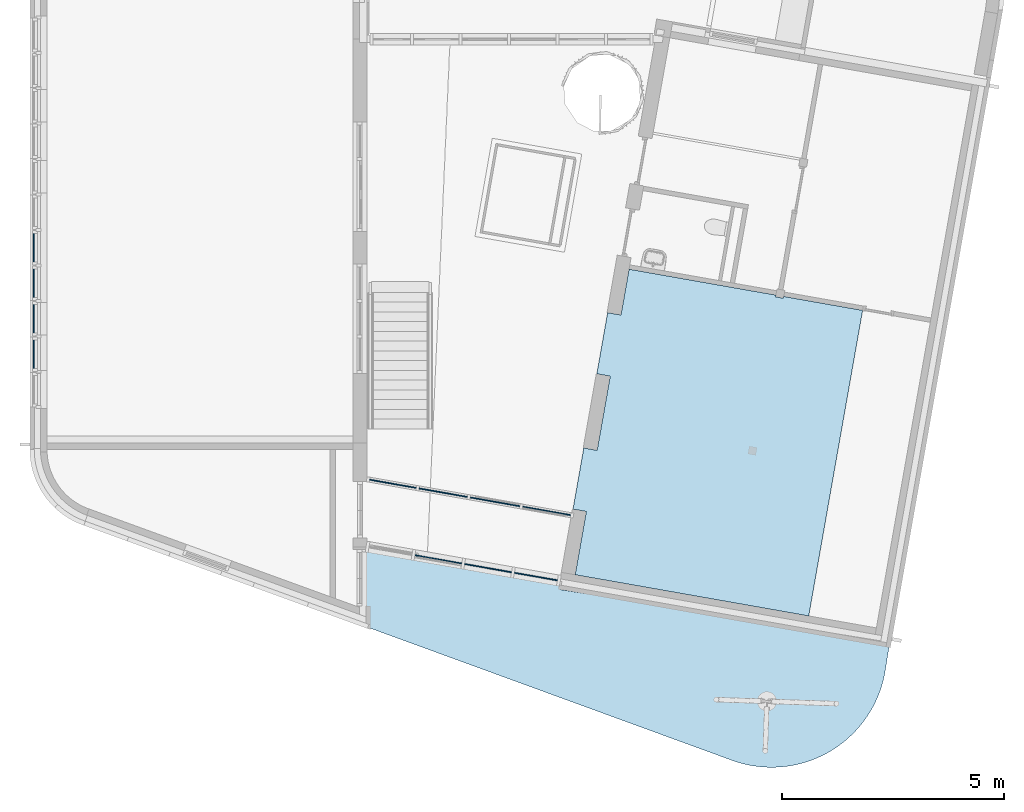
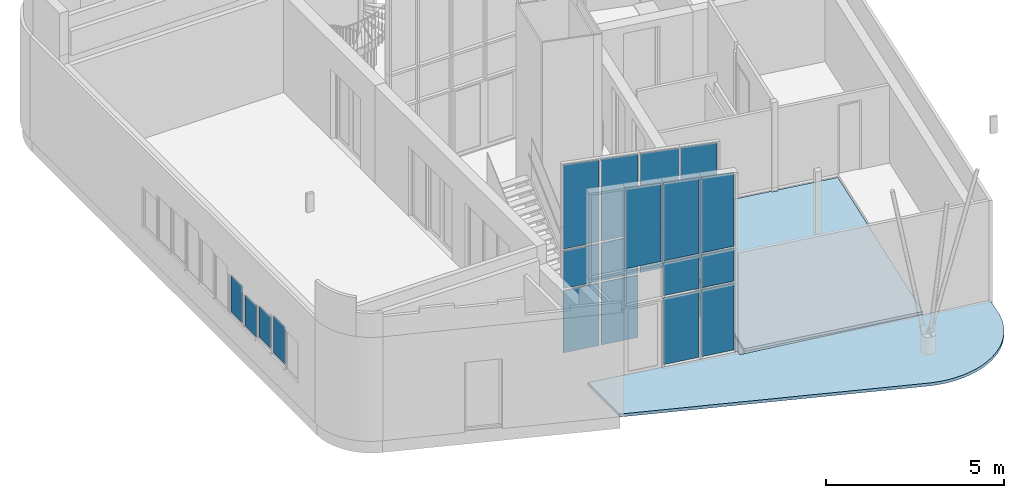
# One storey, part 8 of 21: 21 plates, 3 slabs, 6 elements without a shape of their own.
"""IFC2X3 building model written with IfcOpenShell, lengths in millimetres."""

from ifc_helpers import new_model, entity, si_unit, converted_unit, derived_unit, direction, frame, frame_2d, origin, place, context, subcontext, project, spatial, polyline, circle_curve, parameter, trimmed, segment, composite_curve, rectangle, outline, extrude, source, transform, mapped, material, layer, layer_set, layer_usage, type_object, type_shapes, element, aggregate, save


model = new_model("IFC2X3")

# Units and contexts
model_context = context("Model", 3, precision=0.01, world=origin(), true_north=direction((6.12303176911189e-17, 1.0)))
body_context = subcontext(model_context, "Body", "Model", "MODEL_VIEW")
ifc_project = project(units=[si_unit("LENGTHUNIT", "METRE", prefix="MILLI"), si_unit("AREAUNIT", "SQUARE_METRE"), si_unit("VOLUMEUNIT", "CUBIC_METRE"), converted_unit("PLANEANGLEUNIT", "DEGREE", entity("IfcRatioMeasure", 0.0174532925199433), si_unit("PLANEANGLEUNIT", "RADIAN"), dimensions=[0, 0, 0, 0, 0, 0, 0]), si_unit("MASSUNIT", "GRAM", prefix="KILO"), derived_unit("MASSDENSITYUNIT", [(si_unit("MASSUNIT", "GRAM", prefix="KILO"), 1), (si_unit("LENGTHUNIT", "METRE"), -3)]), si_unit("TIMEUNIT", "SECOND"), si_unit("FREQUENCYUNIT", "HERTZ"), si_unit("THERMODYNAMICTEMPERATUREUNIT", "DEGREE_CELSIUS"), derived_unit("THERMALTRANSMITTANCEUNIT", [(si_unit("MASSUNIT", "GRAM", prefix="KILO"), 1), (si_unit("THERMODYNAMICTEMPERATUREUNIT", "KELVIN"), -1), (si_unit("TIMEUNIT", "SECOND"), -3)]), derived_unit("VOLUMETRICFLOWRATEUNIT", [(si_unit("LENGTHUNIT", "METRE"), 3), (si_unit("TIMEUNIT", "SECOND"), -1)]), si_unit("ELECTRICCURRENTUNIT", "AMPERE"), si_unit("ELECTRICVOLTAGEUNIT", "VOLT"), si_unit("POWERUNIT", "WATT"), si_unit("FORCEUNIT", "NEWTON", prefix="KILO"), si_unit("ILLUMINANCEUNIT", "LUX"), si_unit("LUMINOUSFLUXUNIT", "LUMEN"), si_unit("LUMINOUSINTENSITYUNIT", "CANDELA"), derived_unit("USERDEFINED", [(si_unit("MASSUNIT", "GRAM", prefix="KILO"), -1), (si_unit("LENGTHUNIT", "METRE"), -2), (si_unit("TIMEUNIT", "SECOND"), 3), (si_unit("LUMINOUSFLUXUNIT", "LUMEN"), 1)]), derived_unit("LINEARVELOCITYUNIT", [(si_unit("LENGTHUNIT", "METRE"), 1), (si_unit("TIMEUNIT", "SECOND"), -1)]), si_unit("PRESSUREUNIT", "PASCAL"), derived_unit("USERDEFINED", [(si_unit("LENGTHUNIT", "METRE"), -2), (si_unit("MASSUNIT", "GRAM", prefix="KILO"), 1), (si_unit("TIMEUNIT", "SECOND"), -2)])], contexts=[model_context])

# Site, building, storey
site_placement = place(None, origin())
site = spatial("IfcSite", under=ifc_project, at=site_placement, Name="<Kadaster Gemeente>;<Kadaster nummer>;<Kadaster sectie>", CompositionType="ELEMENT")
building_placement = place(site_placement, origin())
building = spatial("IfcBuilding", under=site, at=building_placement, Name="JRCZ Middelburg", CompositionType="ELEMENT")
storey_placement = place(building_placement, origin())
storey = spatial("IfcBuildingStorey", under=building, at=storey_placement, Name="00 begane grond", CompositionType="ELEMENT", Elevation=0.0)

# Curtain wall, plates
curtain_wall_type_1 = type_object("IfcCurtainWallType", Name="Curtain Wall:vliesgevel B", PredefinedType="NOTDEFINED")
curtain_wall_1_placement = place(storey_placement, origin())
curtain_wall_1 = element("IfcCurtainWall", 1, at=curtain_wall_1_placement, inside=storey, type_object=curtain_wall_type_1, Name="Curtain Wall:vliesgevel B", ObjectType="Curtain Wall:vliesgevel B")
ifc_material_1 = material(Name="<Unnamed>")
ifc_layer_1 = layer(ifc_material_1, 24.0)
ifc_layer_set_1 = layer_set([ifc_layer_1], Name="System Panel:32_CWP_glas")
ifc_layer_usage_1 = layer_usage(ifc_layer_set_1, "AXIS3", "POSITIVE", 0.0)
plate_type_1 = type_object("IfcPlateType", Name="32_CWP_glas", PredefinedType="CURTAIN_PANEL", material=ifc_layer_set_1)
shared_shape_1 = source(origin(), body_context, "Body", "SweptSolid", [
    extrude(rectangle(XDim=24.0, YDim=1065.42331848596, at=frame_2d((0.0, -2.8421709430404e-13), x_axis=(1.0, 0.0))), frame((0.0, 0.0, 0.0), z_axis=(0.0, 0.0, 1.0), x_axis=(0.0, 1.0, 0.0)), (0.0, 0.0, 1.0), 2144.16666666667),
])
type_shapes(plate_type_1, [shared_shape_1])
plate_1_placement = place(curtain_wall_1_placement, frame((17952.8506915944, 9074.2385141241, 67.0), z_axis=(0.0, 0.0, 1.0), x_axis=(0.984807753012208, -0.173648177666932, 0.0)))
plate_1 = element("IfcPlate", 2, at=plate_1_placement, type_object=plate_type_1, material=ifc_layer_usage_1, Name="System Panel:32_CWP_glas", ObjectType="System Panel:32_CWP_glas", context=body_context, shape_type="MappedRepresentation", body=[
    mapped(shared_shape_1, transform((0.0, 0.0, 0.0), scale=1.0)),
])
ifc_layer_usage_2 = layer_usage(ifc_layer_set_1, "AXIS3", "POSITIVE", 0.0)
plate_type_2 = type_object("IfcPlateType", Name="32_CWP_glas", PredefinedType="CURTAIN_PANEL", material=ifc_layer_set_1)
shared_shape_2 = source(origin(), body_context, "Body", "SweptSolid", [
    extrude(rectangle(XDim=24.0, YDim=1105.26973481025, at=frame_2d((0.0, -2.27373675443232e-13), x_axis=(1.0, 0.0))), frame((0.0, 0.0, 0.0), z_axis=(0.0, 0.0, 1.0), x_axis=(0.0, 1.0, 0.0)), (0.0, 0.0, 1.0), 2144.16666666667),
])
type_shapes(plate_type_2, [shared_shape_2])
plate_2_placement = place(curtain_wall_1_placement, frame((19087.6904851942, 8874.13563973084, 67.0), z_axis=(0.0, 0.0, 1.0), x_axis=(0.984807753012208, -0.173648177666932, 0.0)))
plate_2 = element("IfcPlate", 3, at=plate_2_placement, type_object=plate_type_2, material=ifc_layer_usage_2, Name="System Panel:32_CWP_glas", ObjectType="System Panel:32_CWP_glas", context=body_context, shape_type="MappedRepresentation", body=[
    mapped(shared_shape_2, transform((0.0, 0.0, 0.0), scale=1.0)),
])
ifc_layer_usage_3 = layer_usage(ifc_layer_set_1, "AXIS3", "POSITIVE", 0.0)
plate_type_3 = type_object("IfcPlateType", Name="32_CWP_glas", PredefinedType="CURTAIN_PANEL", material=ifc_layer_set_1)
shared_shape_3 = source(origin(), body_context, "Body", "SweptSolid", [
    extrude(rectangle(XDim=24.0, YDim=1065.42331848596, at=frame_2d((0.0, -2.8421709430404e-13), x_axis=(1.0, 0.0))), frame((0.0, 0.0, 0.0), z_axis=(0.0, 0.0, 1.0), x_axis=(0.0, 1.0, 0.0)), (0.0, 0.0, 1.0), 1290.66666666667),
])
type_shapes(plate_type_3, [shared_shape_3])
plate_3_placement = place(curtain_wall_1_placement, frame((17952.8506915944, 9074.2385141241, 2278.16666666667), z_axis=(0.0, 0.0, 1.0), x_axis=(0.984807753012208, -0.173648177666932, 0.0)))
plate_3 = element("IfcPlate", 4, at=plate_3_placement, type_object=plate_type_3, material=ifc_layer_usage_3, Name="System Panel:32_CWP_glas", ObjectType="System Panel:32_CWP_glas", context=body_context, shape_type="MappedRepresentation", body=[
    mapped(shared_shape_3, transform((0.0, 0.0, 0.0), scale=1.0)),
])
ifc_layer_usage_4 = layer_usage(ifc_layer_set_1, "AXIS3", "POSITIVE", 0.0)
plate_type_4 = type_object("IfcPlateType", Name="32_CWP_glas", PredefinedType="CURTAIN_PANEL", material=ifc_layer_set_1)
shared_shape_4 = source(origin(), body_context, "Body", "SweptSolid", [
    extrude(rectangle(XDim=24.0, YDim=1105.26973481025, at=frame_2d((0.0, -2.27373675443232e-13), x_axis=(1.0, 0.0))), frame((0.0, 0.0, 0.0), z_axis=(0.0, 0.0, 1.0), x_axis=(0.0, 1.0, 0.0)), (0.0, 0.0, 1.0), 1290.66666666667),
])
type_shapes(plate_type_4, [shared_shape_4])
plate_4_placement = place(curtain_wall_1_placement, frame((19087.6904851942, 8874.13563973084, 2278.16666666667), z_axis=(0.0, 0.0, 1.0), x_axis=(0.984807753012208, -0.173648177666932, 0.0)))
plate_4 = element("IfcPlate", 5, at=plate_4_placement, type_object=plate_type_4, material=ifc_layer_usage_4, Name="System Panel:32_CWP_glas", ObjectType="System Panel:32_CWP_glas", context=body_context, shape_type="MappedRepresentation", body=[
    mapped(shared_shape_4, transform((0.0, 0.0, 0.0), scale=1.0)),
])
ifc_layer_usage_5 = layer_usage(ifc_layer_set_1, "AXIS3", "POSITIVE", 0.0)
plate_type_5 = type_object("IfcPlateType", Name="32_CWP_glas", PredefinedType="CURTAIN_PANEL", material=ifc_layer_set_1)
shared_shape_5 = source(origin(), body_context, "Body", "SweptSolid", [
    extrude(rectangle(XDim=24.0, YDim=1135.38545793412, at=frame_2d((0.0, -5.6843418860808e-14), x_axis=(1.0, 0.0))), frame((0.0, 0.0, 0.0), z_axis=(0.0, 0.0, 1.0), x_axis=(0.0, 1.0, 0.0)), (0.0, 0.0, 1.0), 1290.66666666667),
])
type_shapes(plate_type_5, [shared_shape_5])
plate_5_placement = place(curtain_wall_1_placement, frame((20256.9799074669, 8667.95836632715, 2278.16666666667), z_axis=(0.0, 0.0, 1.0), x_axis=(0.984807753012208, -0.173648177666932, 0.0)))
plate_5 = element("IfcPlate", 6, at=plate_5_placement, type_object=plate_type_5, material=ifc_layer_usage_5, Name="System Panel:32_CWP_glas", ObjectType="System Panel:32_CWP_glas", context=body_context, shape_type="MappedRepresentation", body=[
    mapped(shared_shape_5, transform((0.0, 0.0, 0.0), scale=1.0)),
])
ifc_layer_usage_6 = layer_usage(ifc_layer_set_1, "AXIS3", "POSITIVE", 0.0)
plate_type_6 = type_object("IfcPlateType", Name="32_CWP_glas", PredefinedType="CURTAIN_PANEL", material=ifc_layer_set_1)
shared_shape_6 = source(origin(), body_context, "Body", "SweptSolid", [
    extrude(rectangle(XDim=24.0, YDim=1095.63545793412, at=frame_2d((0.0, 3.41060513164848e-13), x_axis=(1.0, 0.0))), frame((0.0, 0.0, 0.0), z_axis=(0.0, 0.0, 1.0), x_axis=(0.0, 1.0, 0.0)), (0.0, 0.0, 1.0), 1290.66666666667),
])
type_shapes(plate_type_6, [shared_shape_6])
plate_6_placement = place(curtain_wall_1_placement, frame((21421.5253744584, 8462.6175802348, 2278.16666666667), z_axis=(0.0, 0.0, 1.0), x_axis=(0.984807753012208, -0.173648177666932, 0.0)))
plate_6 = element("IfcPlate", 7, at=plate_6_placement, type_object=plate_type_6, material=ifc_layer_usage_6, Name="System Panel:32_CWP_glas", ObjectType="System Panel:32_CWP_glas", context=body_context, shape_type="MappedRepresentation", body=[
    mapped(shared_shape_6, transform((0.0, 0.0, 0.0), scale=1.0)),
])
ifc_layer_usage_7 = layer_usage(ifc_layer_set_1, "AXIS3", "POSITIVE", 0.0)
plate_type_7 = type_object("IfcPlateType", Name="32_CWP_glas", PredefinedType="CURTAIN_PANEL", material=ifc_layer_set_1)
shared_shape_7 = source(origin(), body_context, "Body", "SweptSolid", [
    extrude(outline(polyline([(-1213.26966802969, -532.711659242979), (-426.769668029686, -532.711659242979), (1678.83955149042, -532.711659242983), (1601.23912062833, 532.711659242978), (-426.769668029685, 532.711659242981), (-1213.26966802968, 532.711659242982), (-1213.26966802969, -532.711659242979)])), frame((0.0, -12.0, 1213.26966802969), z_axis=(0.0, 1.0, 0.0), x_axis=(0.0, 0.0, 1.0)), (0.0, 0.0, 1.0), 24.0),
])
type_shapes(plate_type_7, [shared_shape_7])
plate_7_placement = place(curtain_wall_1_placement, frame((17952.8506915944, 9074.2385141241, 3635.83333333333), z_axis=(0.0, 0.0, 1.0), x_axis=(0.984807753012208, -0.173648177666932, 0.0)))
plate_7 = element("IfcPlate", 8, at=plate_7_placement, type_object=plate_type_7, material=ifc_layer_usage_7, Name="System Panel:32_CWP_glas", ObjectType="System Panel:32_CWP_glas", context=body_context, shape_type="MappedRepresentation", body=[
    mapped(shared_shape_7, transform((0.0, 0.0, 0.0), scale=1.0)),
])
ifc_layer_usage_8 = layer_usage(ifc_layer_set_1, "AXIS3", "POSITIVE", 0.0)
plate_type_8 = type_object("IfcPlateType", Name="32_CWP_glas", PredefinedType="CURTAIN_PANEL", material=ifc_layer_set_1)
shared_shape_8 = source(origin(), body_context, "Body", "SweptSolid", [
    extrude(outline(polyline([(-1185.29249832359, -552.634867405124), (-398.792498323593, -552.634867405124), (1624.33632499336, -552.634867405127), (1543.83366830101, 552.634867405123), (-398.792498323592, 552.634867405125), (-1185.29249832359, 552.634867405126), (-1185.29249832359, -552.634867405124)])), frame((0.0, -12.0, 1185.29249832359), z_axis=(0.0, 1.0, 0.0), x_axis=(0.0, 0.0, 1.0)), (0.0, 0.0, 1.0), 24.0),
])
type_shapes(plate_type_8, [shared_shape_8])
plate_8_placement = place(curtain_wall_1_placement, frame((19087.6904851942, 8874.13563973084, 3635.83333333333), z_axis=(0.0, 0.0, 1.0), x_axis=(0.984807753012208, -0.173648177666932, 0.0)))
plate_8 = element("IfcPlate", 9, at=plate_8_placement, type_object=plate_type_8, material=ifc_layer_usage_8, Name="System Panel:32_CWP_glas", ObjectType="System Panel:32_CWP_glas", context=body_context, shape_type="MappedRepresentation", body=[
    mapped(shared_shape_8, transform((0.0, 0.0, 0.0), scale=1.0)),
])
ifc_layer_usage_9 = layer_usage(ifc_layer_set_1, "AXIS3", "POSITIVE", 0.0)
plate_type_9 = type_object("IfcPlateType", Name="32_CWP_glas", PredefinedType="CURTAIN_PANEL", material=ifc_layer_set_1)
shared_shape_9 = source(origin(), body_context, "Body", "SweptSolid", [
    extrude(outline(polyline([(-1156.46604300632, -567.69272896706), (-369.966043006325, -567.69272896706), (1567.78015827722, -567.692728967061), (1485.08401374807, 567.692728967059), (-369.966043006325, 567.69272896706), (-1156.46604300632, 567.692728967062), (-1156.46604300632, -567.69272896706)])), frame((0.0, -12.0, 1156.46604300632), z_axis=(0.0, 1.0, 0.0), x_axis=(0.0, 0.0, 1.0)), (0.0, 0.0, 1.0), 24.0),
])
type_shapes(plate_type_9, [shared_shape_9])
plate_9_placement = place(curtain_wall_1_placement, frame((20256.9799074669, 8667.95836632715, 3635.83333333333), z_axis=(0.0, 0.0, 1.0), x_axis=(0.984807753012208, -0.173648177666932, 0.0)))
plate_9 = element("IfcPlate", 10, at=plate_9_placement, type_object=plate_type_9, material=ifc_layer_usage_9, Name="System Panel:32_CWP_glas", ObjectType="System Panel:32_CWP_glas", context=body_context, shape_type="MappedRepresentation", body=[
    mapped(shared_shape_9, transform((0.0, 0.0, 0.0), scale=1.0)),
])
ifc_layer_usage_10 = layer_usage(ifc_layer_set_1, "AXIS3", "POSITIVE", 0.0)
plate_type_10 = type_object("IfcPlateType", Name="32_CWP_glas", PredefinedType="CURTAIN_PANEL", material=ifc_layer_set_1)
shared_shape_10 = source(origin(), body_context, "Body", "SweptSolid", [
    extrude(outline(polyline([(-1127.73672556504, -547.817728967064), (-341.236725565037, -547.817728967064), (1508.82053321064, -547.817728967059), (1429.12636904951, 547.817728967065), (-341.236725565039, 547.817728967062), (-1127.73672556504, 547.81772896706), (-1127.73672556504, -547.817728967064)])), frame((0.0, -12.0, 1127.73672556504), z_axis=(0.0, 1.0, 0.0), x_axis=(0.0, 0.0, 1.0)), (0.0, 0.0, 1.0), 24.0),
])
type_shapes(plate_type_10, [shared_shape_10])
plate_10_placement = place(curtain_wall_1_placement, frame((21421.5253744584, 8462.6175802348, 3635.83333333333), z_axis=(0.0, 0.0, 1.0), x_axis=(0.984807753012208, -0.173648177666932, 0.0)))
plate_10 = element("IfcPlate", 11, at=plate_10_placement, type_object=plate_type_10, material=ifc_layer_usage_10, Name="System Panel:32_CWP_glas", ObjectType="System Panel:32_CWP_glas", context=body_context, shape_type="MappedRepresentation", body=[
    mapped(shared_shape_10, transform((0.0, 0.0, 0.0), scale=1.0)),
])
aggregate(curtain_wall_1, [plate_1, plate_2, plate_3, plate_4, plate_5, plate_6, plate_7, plate_8, plate_9, plate_10])

# Curtain wall, plate
curtain_wall_type_2 = type_object("IfcCurtainWallType", Name="Curtain Wall:NLRS_31_CW_Ontwerpkozijn 067x114 2", PredefinedType="NOTDEFINED")
curtain_wall_2_placement = place(storey_placement, origin())
curtain_wall_2 = element("IfcCurtainWall", 12, at=curtain_wall_2_placement, inside=storey, type_object=curtain_wall_type_2, Name="Curtain Wall:NLRS_31_CW_Ontwerpkozijn 067x114 2", ObjectType="Curtain Wall:NLRS_31_CW_Ontwerpkozijn 067x114 2")
ifc_layer_2 = layer(ifc_material_1, 24.0)
ifc_layer_set_2 = layer_set([ifc_layer_2], Name="System Panel:31_CWP_glas_2")
ifc_layer_usage_11 = layer_usage(ifc_layer_set_2, "AXIS3", "POSITIVE", 0.278871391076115)
plate_type_11 = type_object("IfcPlateType", Name="31_CWP_glas_2", PredefinedType="CURTAIN_PANEL", material=ifc_layer_set_2)
shared_shape_11 = source(origin(), body_context, "Body", "SweptSolid", [
    extrude(rectangle(XDim=24.0, YDim=640.999999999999, at=frame_2d((-7.99360577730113e-15, 0.0), x_axis=(1.0, 0.0))), frame((0.0, -85.0, 0.0), z_axis=(0.0, 0.0, 1.0), x_axis=(0.0, 1.0, 0.0)), (0.0, 0.0, 1.0), 1266.0),
])
type_shapes(plate_type_11, [shared_shape_11])
plate_11_placement = place(curtain_wall_2_placement, frame((9931.0, 12000.0, 817.0), z_axis=(0.0, 0.0, 1.0), x_axis=(0.0, -1.0, 0.0)))
plate_11 = element("IfcPlate", 13, at=plate_11_placement, type_object=plate_type_11, material=ifc_layer_usage_11, Name="System Panel:31_CWP_glas_2", ObjectType="System Panel:31_CWP_glas_2", context=body_context, shape_type="MappedRepresentation", body=[
    mapped(shared_shape_11, transform((0.0, 0.0, 0.0), scale=1.0)),
])
aggregate(curtain_wall_2, [plate_11])

curtain_wall_3_placement = place(storey_placement, origin())
curtain_wall_3 = element("IfcCurtainWall", 14, at=curtain_wall_3_placement, inside=storey, type_object=curtain_wall_type_2, Name="Curtain Wall:NLRS_31_CW_Ontwerpkozijn 067x114 2", ObjectType="Curtain Wall:NLRS_31_CW_Ontwerpkozijn 067x114 2")
ifc_layer_usage_12 = layer_usage(ifc_layer_set_2, "AXIS3", "POSITIVE", 0.278871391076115)
plate_12_placement = place(curtain_wall_3_placement, frame((9931.0, 14400.0, 767.0), z_axis=(0.0, 0.0, 1.0), x_axis=(0.0, -1.0, 0.0)))
plate_12 = element("IfcPlate", 15, at=plate_12_placement, type_object=plate_type_11, material=ifc_layer_usage_12, Name="System Panel:31_CWP_glas_2", ObjectType="System Panel:31_CWP_glas_2", context=body_context, shape_type="MappedRepresentation", body=[
    mapped(shared_shape_11, transform((0.0, 0.0, 0.0), scale=1.0)),
])
aggregate(curtain_wall_3, [plate_12])

# Slab
ifc_material_2 = material(Name="RBM_f2_beton_ihwg_gen")
ifc_layer_3 = layer(ifc_material_2, 100.0)
ifc_layer_set_3 = layer_set([ifc_layer_3], Name="Floor:RBM_43_FL_cementdekvloer-50mm_gen_rsf")
ifc_layer_usage_13 = layer_usage(ifc_layer_set_3, "AXIS3", "POSITIVE", 0.0)
slab_type_1 = type_object("IfcSlabType", Name="Floor:RBM_43_FL_cementdekvloer-50mm_gen_rsf", PredefinedType="FLOOR", material=ifc_layer_set_3)
slab_1_placement = place(storey_placement, origin())
element("IfcSlab", 16, at=slab_1_placement, inside=storey, type_object=slab_type_1, material=ifc_layer_usage_13, Name="Floor:RBM_43_FL_cementdekvloer-50mm_gen_rsf", ObjectType="Floor:RBM_43_FL_cementdekvloer-50mm_gen_rsf", PredefinedType="FLOOR", context=body_context, shape_type="SweptSolid", body=[
    extrude(outline(composite_curve([segment(polyline([(106.888391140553, -5799.90451318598), (1903.3167253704, -5799.90451318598)]), True, "CONTINUOUS"), segment(polyline([(1903.3167253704, -5799.90451318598), (1119.95172952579, -1378.51361914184)]), True, "CONTINUOUS"), segment(polyline([(1119.95172952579, -1378.51361914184), (943.199966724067, -1409.82981516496)]), True, "CONTINUOUS"), segment(polyline([(943.199966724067, -1409.82981516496), (-245.57686505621, 6018.92743169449)]), True, "CONTINUOUS"), segment(polyline([(-245.57686505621, 6018.92743169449), (-918.630938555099, 5911.22286382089)]), True, "CONTINUOUS"), segment(trimmed(circle_curve(frame_2d((-467.209199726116, 3350.7115059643), x_axis=(-0.17362374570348, 0.984812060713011)), 2600.0), [parameter(0.0)], [parameter(100.082512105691)], True, "PARAMETER"), True, "CONTINUOUS"), segment(polyline([(-2909.14900914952, 2458.00216516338), (106.888391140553, -5799.90451318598)]), True, "CONTINUOUS")], self_intersect=False)), frame((23143.9045131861, 5744.53608267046, 0.0), z_axis=(0.0, 0.0, -1.0), x_axis=(0.0, 1.0, 0.0)), (0.0, 0.0, 1.0), 100.0),
])

# Curtain wall, plate
curtain_wall_4_placement = place(storey_placement, origin())
curtain_wall_4 = element("IfcCurtainWall", 17, at=curtain_wall_4_placement, inside=storey, type_object=curtain_wall_type_2, Name="Curtain Wall:NLRS_31_CW_Ontwerpkozijn 067x114 2", ObjectType="Curtain Wall:NLRS_31_CW_Ontwerpkozijn 067x114 2")
ifc_layer_usage_14 = layer_usage(ifc_layer_set_2, "AXIS3", "POSITIVE", 0.278871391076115)
plate_type_12 = type_object("IfcPlateType", Name="31_CWP_glas_2", PredefinedType="CURTAIN_PANEL", material=ifc_layer_set_2)
shared_shape_12 = source(origin(), body_context, "Body", "SweptSolid", [
    extrude(rectangle(XDim=24.0, YDim=640.999999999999, at=frame_2d((-7.99360577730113e-15, 0.0), x_axis=(1.0, 0.0))), frame((0.0, -85.0, 0.0), z_axis=(0.0, 0.0, 1.0), x_axis=(0.0, 1.0, 0.0)), (0.0, 0.0, 1.0), 1066.0),
])
type_shapes(plate_type_12, [shared_shape_12])
plate_13_placement = place(curtain_wall_4_placement, frame((9931.0, 13600.0, 767.0), z_axis=(0.0, 0.0, 1.0), x_axis=(0.0, -1.0, 0.0)))
plate_13 = element("IfcPlate", 18, at=plate_13_placement, type_object=plate_type_12, material=ifc_layer_usage_14, Name="System Panel:31_CWP_glas_2", ObjectType="System Panel:31_CWP_glas_2", context=body_context, shape_type="MappedRepresentation", body=[
    mapped(shared_shape_12, transform((0.0, 0.0, 0.0), scale=1.0)),
])
aggregate(curtain_wall_4, [plate_13])

curtain_wall_5_placement = place(storey_placement, origin())
curtain_wall_5 = element("IfcCurtainWall", 19, at=curtain_wall_5_placement, inside=storey, type_object=curtain_wall_type_2, Name="Curtain Wall:NLRS_31_CW_Ontwerpkozijn 067x114 2", ObjectType="Curtain Wall:NLRS_31_CW_Ontwerpkozijn 067x114 2")
ifc_layer_usage_15 = layer_usage(ifc_layer_set_2, "AXIS3", "POSITIVE", 0.278871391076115)
plate_14_placement = place(curtain_wall_5_placement, frame((9931.0, 12800.0, 867.0), z_axis=(0.0, 0.0, 1.0), x_axis=(0.0, -1.0, 0.0)))
plate_14 = element("IfcPlate", 20, at=plate_14_placement, type_object=plate_type_12, material=ifc_layer_usage_15, Name="System Panel:31_CWP_glas_2", ObjectType="System Panel:31_CWP_glas_2", context=body_context, shape_type="MappedRepresentation", body=[
    mapped(shared_shape_12, transform((0.0, 0.0, 0.0), scale=1.0)),
])
aggregate(curtain_wall_5, [plate_14])

# Slabs
ifc_material_3 = material(Name="vloerafwerking pvc")
ifc_layer_4 = layer(ifc_material_3, 10.0)
ifc_material_4 = material(Name="RBM_f2_beton_ihwg C20-25")
ifc_layer_5 = layer(ifc_material_4, 80.0)
ifc_layer_set_4 = layer_set([ifc_layer_4, ifc_layer_5], Name="Floor:RBM_23_FL_gewapende druklaag gevlinderd+ afwerking")
ifc_layer_usage_16 = layer_usage(ifc_layer_set_4, "AXIS3", "POSITIVE", 0.0)
slab_type_2 = type_object("IfcSlabType", Name="Floor:RBM_23_FL_gewapende druklaag gevlinderd+ afwerking", PredefinedType="FLOOR", material=ifc_layer_set_4)
slab_2_placement = place(storey_placement, origin())
element("IfcSlab", 21, at=slab_2_placement, inside=storey, type_object=slab_type_2, material=ifc_layer_usage_16, Name="Floor:RBM_23_FL_gewapende druklaag gevlinderd+ afwerking", ObjectType="Floor:RBM_23_FL_gewapende druklaag gevlinderd+ afwerking", PredefinedType="FLOOR", context=body_context, shape_type="SweptSolid", body=[
    extrude(outline(polyline([(-2530.0, -3894.25), (4470.0, -3894.25), (4470.0, 1455.74999999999), (3020.0, 1455.74999999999), (3020.0, 1761.75), (1620.0, 1761.75), (1620.0, 1455.75), (-80.0, 1455.75), (-80.0, 1761.75), (-1480.0, 1761.75), (-1480.0, 1455.75), (-2530.0, 1455.75), (-2530.0, -1908.25), (-2490.0, -1908.25), (-2490.0, -2088.25), (-2530.0, -2088.25), (-2530.0, -3894.25)])), frame((24275.0452005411, 11171.2594183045, -120.0), z_axis=(0.0, 0.0, -1.0), x_axis=(-0.173648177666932, -0.984807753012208, 0.0)), (0.0, 0.0, 1.0), 90.0),
])
ifc_material_5 = material(Name="RBM_n7_isolatie_hsb_245")
ifc_layer_6 = layer(ifc_material_5, 560.0)
ifc_layer_set_5 = layer_set([ifc_layer_6], Name="Floor:RBM_23_FL_tempex 690mm")
ifc_layer_usage_17 = layer_usage(ifc_layer_set_5, "AXIS3", "POSITIVE", 0.0)
slab_type_3 = type_object("IfcSlabType", Name="Floor:RBM_23_FL_tempex 690mm", PredefinedType="FLOOR", material=ifc_layer_set_5)
slab_3_placement = place(storey_placement, origin())
element("IfcSlab", 22, at=slab_3_placement, inside=storey, type_object=slab_type_3, material=ifc_layer_usage_17, Name="Floor:RBM_23_FL_tempex 690mm", ObjectType="Floor:RBM_23_FL_tempex 690mm", PredefinedType="FLOOR", context=body_context, shape_type="SweptSolid", body=[
    extrude(outline(polyline([(-2530.0, -3894.24999999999), (4470.0, -3894.24999999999), (4470.0, 1455.75), (3020.0, 1455.75), (3020.0, 1761.75), (1620.0, 1761.75), (1620.0, 1455.75), (-80.0, 1455.75), (-80.0, 1761.75), (-1480.0, 1761.75), (-1480.0, 1455.75000000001), (-2530.0, 1455.75000000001), (-2530.0, -1908.25), (-2490.0, -1908.25), (-2490.0, -2088.25), (-2530.0, -2088.25), (-2530.0, -3894.24999999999)])), frame((24275.0452005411, 11171.2594183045, -200.0), z_axis=(0.0, 0.0, -1.0), x_axis=(-0.173648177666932, -0.984807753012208, 0.0)), (0.0, 0.0, 1.0), 560.0),
])

# Curtain wall, plates
curtain_wall_type_3 = type_object("IfcCurtainWallType", Name="Curtain Wall:vliesgevel A", PredefinedType="NOTDEFINED")
curtain_wall_6_placement = place(storey_placement, origin())
curtain_wall_6 = element("IfcCurtainWall", 23, at=curtain_wall_6_placement, inside=storey, type_object=curtain_wall_type_3, Name="Curtain Wall:vliesgevel A", ObjectType="Curtain Wall:vliesgevel A")
ifc_layer_7 = layer(ifc_material_1, 24.0)
ifc_layer_set_6 = layer_set([ifc_layer_7], Name="System Panel:31_CWP_glas_1")
ifc_layer_usage_18 = layer_usage(ifc_layer_set_6, "AXIS3", "POSITIVE", 0.187007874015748)
plate_type_13 = type_object("IfcPlateType", Name="31_CWP_glas_1", PredefinedType="CURTAIN_PANEL", material=ifc_layer_set_6)
shared_shape_13 = source(origin(), body_context, "Body", "SweptSolid", [
    extrude(rectangle(XDim=24.0, YDim=985.058752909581, at=frame_2d((-4.44089209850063e-15, -2.55795384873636e-13), x_axis=(1.0, 0.0))), frame((0.0, 57.0, 0.0), z_axis=(0.0, 0.0, 1.0), x_axis=(0.0, 1.0, 0.0)), (0.0, 0.0, 1.0), 2299.5),
])
type_shapes(plate_type_13, [shared_shape_13])
plate_15_placement = place(curtain_wall_6_placement, frame((21189.0341191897, 7037.33603375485, 67.0), z_axis=(0.0, 0.0, 1.0), x_axis=(-0.984807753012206, 0.173648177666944, 0.0)))
plate_15 = element("IfcPlate", 24, at=plate_15_placement, type_object=plate_type_13, material=ifc_layer_usage_18, Name="System Panel:31_CWP_glas_1", ObjectType="System Panel:31_CWP_glas_1", context=body_context, shape_type="MappedRepresentation", body=[
    mapped(shared_shape_13, transform((0.0, 0.0, 0.0), scale=1.0)),
])
ifc_layer_usage_19 = layer_usage(ifc_layer_set_6, "AXIS3", "POSITIVE", 0.187007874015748)
plate_type_14 = type_object("IfcPlateType", Name="31_CWP_glas_1", PredefinedType="CURTAIN_PANEL", material=ifc_layer_set_6)
shared_shape_14 = source(origin(), body_context, "Body", "SweptSolid", [
    extrude(rectangle(XDim=24.0, YDim=1072.5587529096, at=frame_2d((-4.44089209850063e-15, 3.41060513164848e-13), x_axis=(1.0, 0.0))), frame((0.0, 57.0, 0.0), z_axis=(0.0, 0.0, 1.0), x_axis=(0.0, 1.0, 0.0)), (0.0, 0.0, 1.0), 2299.5),
])
type_shapes(plate_type_14, [shared_shape_14])
plate_16_placement = place(curtain_wall_6_placement, frame((20109.8731635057, 7227.62122676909, 67.0), z_axis=(0.0, 0.0, 1.0), x_axis=(-0.984807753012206, 0.173648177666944, 0.0)))
plate_16 = element("IfcPlate", 25, at=plate_16_placement, type_object=plate_type_14, material=ifc_layer_usage_19, Name="System Panel:31_CWP_glas_1", ObjectType="System Panel:31_CWP_glas_1", context=body_context, shape_type="MappedRepresentation", body=[
    mapped(shared_shape_14, transform((0.0, 0.0, 0.0), scale=1.0)),
])
ifc_layer_usage_20 = layer_usage(ifc_layer_set_6, "AXIS3", "POSITIVE", 0.187007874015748)
plate_type_15 = type_object("IfcPlateType", Name="31_CWP_glas_1", PredefinedType="CURTAIN_PANEL", material=ifc_layer_set_6)
shared_shape_15 = source(origin(), body_context, "Body", "SweptSolid", [
    extrude(rectangle(XDim=24.0, YDim=985.058752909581, at=frame_2d((-4.44089209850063e-15, -2.55795384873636e-13), x_axis=(1.0, 0.0))), frame((0.0, 57.0, 0.0), z_axis=(0.0, 0.0, 1.0), x_axis=(0.0, 1.0, 0.0)), (0.0, 0.0, 1.0), 1133.0),
])
type_shapes(plate_type_15, [shared_shape_15])
plate_17_placement = place(curtain_wall_6_placement, frame((21189.0341191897, 7037.33603375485, 2433.5), z_axis=(0.0, 0.0, 1.0), x_axis=(-0.984807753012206, 0.173648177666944, 0.0)))
plate_17 = element("IfcPlate", 26, at=plate_17_placement, type_object=plate_type_15, material=ifc_layer_usage_20, Name="System Panel:31_CWP_glas_1", ObjectType="System Panel:31_CWP_glas_1", context=body_context, shape_type="MappedRepresentation", body=[
    mapped(shared_shape_15, transform((0.0, 0.0, 0.0), scale=1.0)),
])
ifc_layer_usage_21 = layer_usage(ifc_layer_set_6, "AXIS3", "POSITIVE", 0.187007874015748)
plate_type_16 = type_object("IfcPlateType", Name="31_CWP_glas_1", PredefinedType="CURTAIN_PANEL", material=ifc_layer_set_6)
shared_shape_16 = source(origin(), body_context, "Body", "SweptSolid", [
    extrude(rectangle(XDim=24.0, YDim=1072.5587529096, at=frame_2d((-4.44089209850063e-15, 3.41060513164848e-13), x_axis=(1.0, 0.0))), frame((0.0, 57.0, 0.0), z_axis=(0.0, 0.0, 1.0), x_axis=(0.0, 1.0, 0.0)), (0.0, 0.0, 1.0), 1133.0),
])
type_shapes(plate_type_16, [shared_shape_16])
plate_18_placement = place(curtain_wall_6_placement, frame((20109.8731635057, 7227.62122676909, 2433.5), z_axis=(0.0, 0.0, 1.0), x_axis=(-0.984807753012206, 0.173648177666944, 0.0)))
plate_18 = element("IfcPlate", 27, at=plate_18_placement, type_object=plate_type_16, material=ifc_layer_usage_21, Name="System Panel:31_CWP_glas_1", ObjectType="System Panel:31_CWP_glas_1", context=body_context, shape_type="MappedRepresentation", body=[
    mapped(shared_shape_16, transform((0.0, 0.0, 0.0), scale=1.0)),
])
ifc_layer_usage_22 = layer_usage(ifc_layer_set_6, "AXIS3", "POSITIVE", 0.187007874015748)
plate_type_17 = type_object("IfcPlateType", Name="31_CWP_glas_1", PredefinedType="CURTAIN_PANEL", material=ifc_layer_set_6)
shared_shape_17 = source(origin(), body_context, "Body", "SweptSolid", [
    extrude(outline(polyline([(-1286.03889602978, -492.52937645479), (1249.09919279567, -492.52937645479), (1322.97859926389, 492.529376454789), (-1286.03889602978, 492.529376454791), (-1286.03889602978, -492.52937645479)])), frame((0.0, 45.0, 1286.03889602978), z_axis=(0.0, 1.0, 0.0), x_axis=(0.0, 0.0, 1.0)), (0.0, 0.0, 1.0), 24.0),
])
type_shapes(plate_type_17, [shared_shape_17])
plate_19_placement = place(curtain_wall_6_placement, frame((21189.0341191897, 7037.33603375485, 3633.5), z_axis=(0.0, 0.0, 1.0), x_axis=(-0.984807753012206, 0.173648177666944, 0.0)))
plate_19 = element("IfcPlate", 28, at=plate_19_placement, type_object=plate_type_17, material=ifc_layer_usage_22, Name="System Panel:31_CWP_glas_1", ObjectType="System Panel:31_CWP_glas_1", context=body_context, shape_type="MappedRepresentation", body=[
    mapped(shared_shape_17, transform((0.0, 0.0, 0.0), scale=1.0)),
])
ifc_layer_usage_23 = layer_usage(ifc_layer_set_6, "AXIS3", "POSITIVE", 0.187007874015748)
plate_type_18 = type_object("IfcPlateType", Name="31_CWP_glas_1", PredefinedType="CURTAIN_PANEL", material=ifc_layer_set_6)
shared_shape_18 = source(origin(), body_context, "Body", "SweptSolid", [
    extrude(outline(polyline([(-1327.13172426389, -536.279376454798), (1286.91077102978, -536.279376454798), (1367.352677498, 536.279376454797), (-1327.13172426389, 536.279376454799), (-1327.13172426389, -536.279376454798)])), frame((0.0, 45.0, 1327.13172426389), z_axis=(0.0, 1.0, 0.0), x_axis=(0.0, 0.0, 1.0)), (0.0, 0.0, 1.0), 24.0),
])
type_shapes(plate_type_18, [shared_shape_18])
plate_20_placement = place(curtain_wall_6_placement, frame((20109.8731635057, 7227.62122676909, 3633.5), z_axis=(0.0, 0.0, 1.0), x_axis=(-0.984807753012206, 0.173648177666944, 0.0)))
plate_20 = element("IfcPlate", 29, at=plate_20_placement, type_object=plate_type_18, material=ifc_layer_usage_23, Name="System Panel:31_CWP_glas_1", ObjectType="System Panel:31_CWP_glas_1", context=body_context, shape_type="MappedRepresentation", body=[
    mapped(shared_shape_18, transform((0.0, 0.0, 0.0), scale=1.0)),
])
ifc_layer_usage_24 = layer_usage(ifc_layer_set_6, "AXIS3", "POSITIVE", 0.187007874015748)
plate_type_19 = type_object("IfcPlateType", Name="31_CWP_glas_1", PredefinedType="CURTAIN_PANEL", material=ifc_layer_set_6)
shared_shape_19 = source(origin(), body_context, "Body", "SweptSolid", [
    extrude(outline(polyline([(-1369.865177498, -536.279376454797), (1329.64422426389, -536.279376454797), (1410.0861307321, 536.279376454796), (-1369.865177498, 536.279376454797), (-1369.865177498, -536.279376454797)])), frame((0.0, 45.0, 1369.865177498), z_axis=(0.0, 1.0, 0.0), x_axis=(0.0, 0.0, 1.0)), (0.0, 0.0, 1.0), 24.0),
])
type_shapes(plate_type_19, [shared_shape_19])
plate_21_placement = place(curtain_wall_6_placement, frame((18987.6268686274, 7425.50352755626, 3633.5), z_axis=(0.0, 0.0, 1.0), x_axis=(-0.984807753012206, 0.173648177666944, 0.0)))
plate_21 = element("IfcPlate", 30, at=plate_21_placement, type_object=plate_type_19, material=ifc_layer_usage_24, Name="System Panel:31_CWP_glas_1", ObjectType="System Panel:31_CWP_glas_1", context=body_context, shape_type="MappedRepresentation", body=[
    mapped(shared_shape_19, transform((0.0, 0.0, 0.0), scale=1.0)),
])
aggregate(curtain_wall_6, [plate_15, plate_16, plate_17, plate_18, plate_19, plate_20, plate_21])

save(model, "model.ifc")
